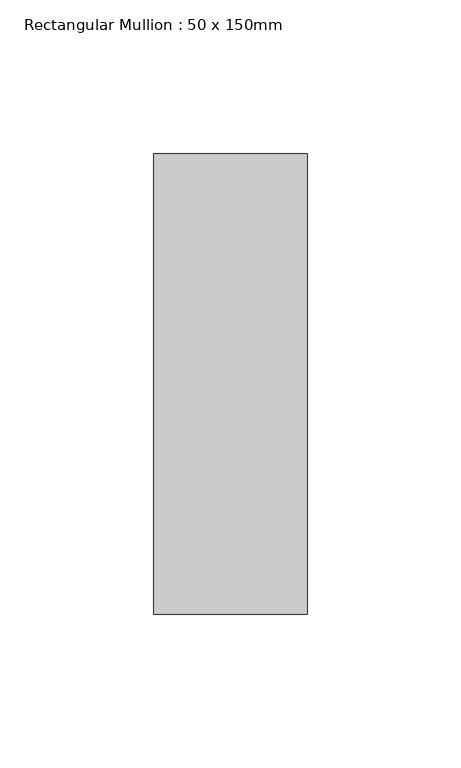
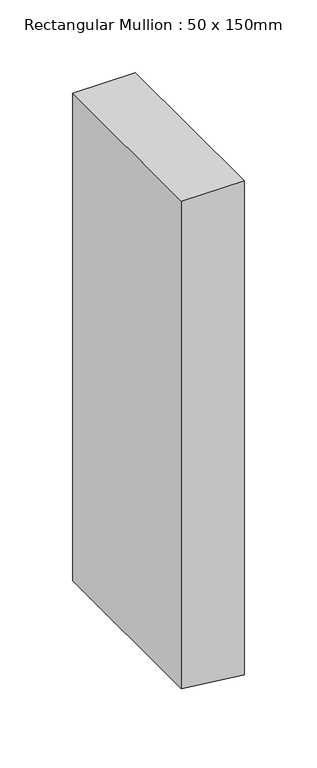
"""IFC4 building model written with IfcOpenShell, lengths in millimetres: member geometry, Rectangular Mullion : 50 x 150mm."""

from ifc_helpers import new_model, si_unit, frame, origin, place, context, project, spatial, polyline, outline, extrude, source, transform, mapped, element, save


def rectangular_mullion_50_x_150mm_5c85a9cc(model_context):
    return source(origin(), model_context, "Body", "SweptSolid", [
        extrude(outline(polyline([(0.0, 25.0), (0.0, -25.0), (-410.2066646, -25.0), (-413.6868238, 5.6423937), (-415.885332, 25.0), (0.0, 25.0)])), frame((0.0, -75.0, 0.0), z_axis=(0.0, 1.0, 0.0), x_axis=(0.0, 0.0, 1.0)), (0.0, 0.0, 1.0), 150.0),
    ])


if __name__ == "__main__":
    model = new_model("IFC4")
    model_context = context("Model", 3, world=origin())
    ifc_project = project(units=[si_unit("LENGTHUNIT", "METRE", prefix="MILLI")], contexts=[model_context])
    site = spatial("IfcSite", under=ifc_project)
    building = spatial("IfcBuilding", under=site)
    placement = place(None, origin())
    rectangular_mullion_50_x_150mm_shape = rectangular_mullion_50_x_150mm_5c85a9cc(model_context)
    element("IfcMember", 1, ObjectType="Rectangular Mullion : 50 x 150mm", at=placement, inside=building, context=model_context, shape_type="MappedRepresentation", body=[
        mapped(rectangular_mullion_50_x_150mm_shape, transform((0.0, 0.0, 0.0), x_axis=(1.0, 0.0, 0.0), y_axis=(0.0, 1.0, 0.0), z_axis=(0.0, 0.0, 1.0))),
    ])
    save(model, "model.ifc")
